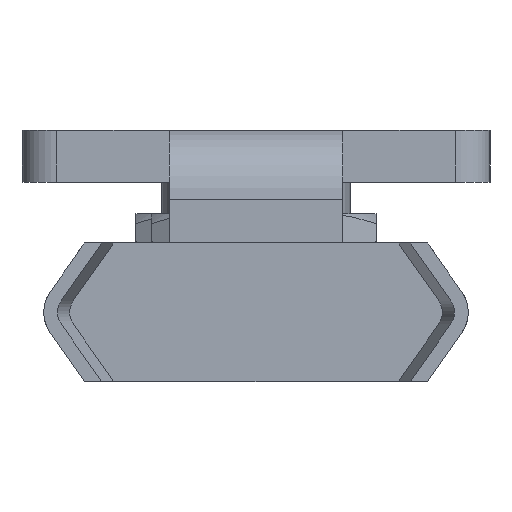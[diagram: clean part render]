
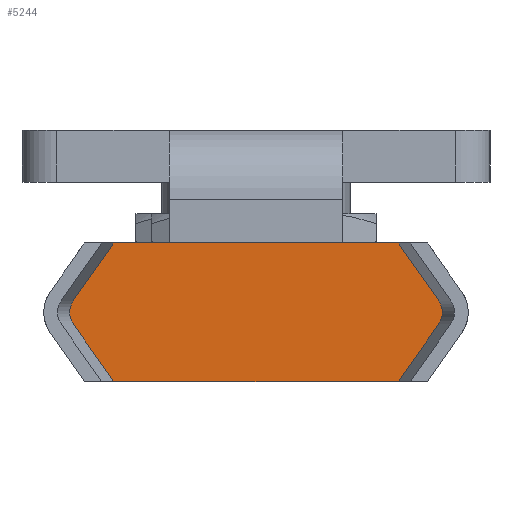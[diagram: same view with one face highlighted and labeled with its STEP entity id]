
A CAD part, left-side view. The second image highlights one B-rep face of the part: STEP entity #5244.
In plain terms, the highlighted planar face has unit normal (-1, 0, 0).
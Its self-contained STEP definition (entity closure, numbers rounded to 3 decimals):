
#77=LINE('',#7414,#299);
#144=LINE('',#7663,#366);
#145=LINE('',#7666,#367);
#146=LINE('',#7670,#368);
#147=LINE('',#7671,#369);
#148=LINE('',#7675,#370);
#299=VECTOR('',#6110,1000.);
#366=VECTOR('',#6345,1000.);
#367=VECTOR('',#6346,1000.);
#368=VECTOR('',#6349,1000.);
#369=VECTOR('',#6350,1000.);
#370=VECTOR('',#6353,1000.);
#590=PLANE('',#5587);
#760=CIRCLE('',#5588,1.146);
#761=CIRCLE('',#5589,1.146);
#1292=ORIENTED_EDGE('',*,*,#2178,.F.);
#1293=ORIENTED_EDGE('',*,*,#2179,.F.);
#1294=ORIENTED_EDGE('',*,*,#2180,.F.);
#1295=ORIENTED_EDGE('',*,*,#2181,.F.);
#1296=ORIENTED_EDGE('',*,*,#2065,.F.);
#1297=ORIENTED_EDGE('',*,*,#2182,.F.);
#1298=ORIENTED_EDGE('',*,*,#2183,.F.);
#1299=ORIENTED_EDGE('',*,*,#2184,.F.);
#2065=EDGE_CURVE('',#2545,#2546,#77,.T.);
#2178=EDGE_CURVE('',#2612,#2613,#144,.T.);
#2179=EDGE_CURVE('',#2614,#2612,#145,.T.);
#2180=EDGE_CURVE('',#2615,#2614,#760,.T.);
#2181=EDGE_CURVE('',#2546,#2615,#146,.T.);
#2182=EDGE_CURVE('',#2616,#2545,#147,.T.);
#2183=EDGE_CURVE('',#2617,#2616,#761,.T.);
#2184=EDGE_CURVE('',#2613,#2617,#148,.T.);
#2545=VERTEX_POINT('',#7413);
#2546=VERTEX_POINT('',#7415);
#2612=VERTEX_POINT('',#7664);
#2613=VERTEX_POINT('',#7665);
#2614=VERTEX_POINT('',#7667);
#2615=VERTEX_POINT('',#7669);
#2616=VERTEX_POINT('',#7672);
#2617=VERTEX_POINT('',#7674);
#2986=EDGE_LOOP('',(#1292,#1293,#1294,#1295,#1296,#1297,#1298,#1299));
#3294=FACE_BOUND('',#2986,.T.);
#5244=ADVANCED_FACE('',(#3294),#590,.F.);
#5587=AXIS2_PLACEMENT_3D('',#7662,#6343,#6344);
#5588=AXIS2_PLACEMENT_3D('',#7668,#6347,#6348);
#5589=AXIS2_PLACEMENT_3D('',#7673,#6351,#6352);
#6110=DIRECTION('',(0.,1.,0.));
#6343=DIRECTION('',(1.,0.,0.));
#6344=DIRECTION('',(0.,0.,-1.));
#6345=DIRECTION('',(0.,-1.,0.));
#6346=DIRECTION('',(0.,-0.574,0.819));
#6347=DIRECTION('',(1.,0.,0.));
#6348=DIRECTION('',(0.,0.,-1.));
#6349=DIRECTION('',(0.,0.574,0.819));
#6350=DIRECTION('',(0.,0.574,-0.819));
#6351=DIRECTION('',(1.,0.,0.));
#6352=DIRECTION('',(0.,0.,-1.));
#6353=DIRECTION('',(0.,-0.574,-0.819));
#7413=CARTESIAN_POINT('',(-45.5,-8.209,-11.5));
#7414=CARTESIAN_POINT('',(-45.5,-8.209,-11.5));
#7415=CARTESIAN_POINT('',(-45.5,8.209,-11.5));
#7662=CARTESIAN_POINT('',(-45.5,-9.611,-7.5));
#7663=CARTESIAN_POINT('',(-45.5,8.209,-3.5));
#7664=CARTESIAN_POINT('',(-45.5,8.209,-3.5));
#7665=CARTESIAN_POINT('',(-45.5,-8.209,-3.5));
#7666=CARTESIAN_POINT('',(-45.5,10.55,-6.843));
#7667=CARTESIAN_POINT('',(-45.5,10.55,-6.843));
#7668=CARTESIAN_POINT('',(-45.5,9.611,-7.5));
#7669=CARTESIAN_POINT('',(-45.5,10.55,-8.157));
#7670=CARTESIAN_POINT('',(-45.5,8.209,-11.5));
#7671=CARTESIAN_POINT('',(-45.5,-10.55,-8.157));
#7672=CARTESIAN_POINT('',(-45.5,-10.55,-8.157));
#7673=CARTESIAN_POINT('',(-45.5,-9.611,-7.5));
#7674=CARTESIAN_POINT('',(-45.5,-10.55,-6.843));
#7675=CARTESIAN_POINT('',(-45.5,-8.209,-3.5));
